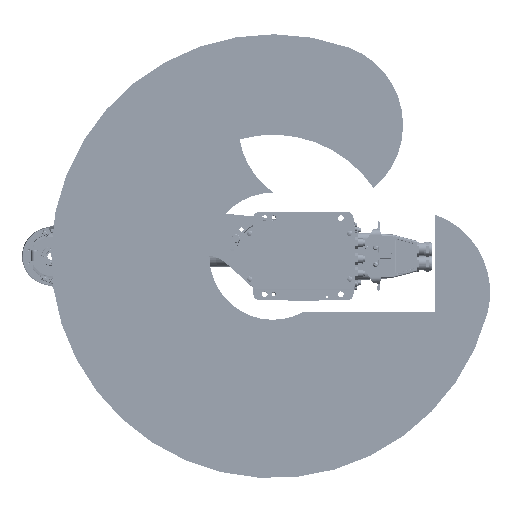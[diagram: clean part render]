
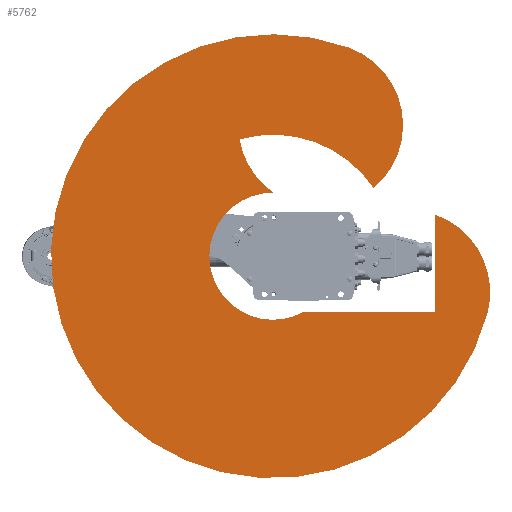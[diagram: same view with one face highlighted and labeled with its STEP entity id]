
A CAD part, front view. The second image highlights one B-rep face of the part: STEP entity #5762.
In plain terms, the highlighted planar face has unit normal (0, -1, 0).
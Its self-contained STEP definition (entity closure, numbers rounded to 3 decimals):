
#5762 = ADVANCED_FACE( '', ( #15314 ), #15315, .F. );
#15314 = FACE_OUTER_BOUND( '', #29925, .T. );
#15315 = PLANE( '', #29926 );
#29925 = EDGE_LOOP( '', ( #48568, #48569, #48570, #48571, #48572, #48573, #48574, #48575 ) );
#29926 = AXIS2_PLACEMENT_3D( '', #48576, #48577, #48578 );
#48568 = ORIENTED_EDGE( '', *, *, #81053, .T. );
#48569 = ORIENTED_EDGE( '', *, *, #81167, .F. );
#48570 = ORIENTED_EDGE( '', *, *, #81168, .F. );
#48571 = ORIENTED_EDGE( '', *, *, #81169, .F. );
#48572 = ORIENTED_EDGE( '', *, *, #81170, .F. );
#48573 = ORIENTED_EDGE( '', *, *, #81171, .T. );
#48574 = ORIENTED_EDGE( '', *, *, #81172, .T. );
#48575 = ORIENTED_EDGE( '', *, *, #81173, .T. );
#48576 = CARTESIAN_POINT( '', ( 28.47, 0., 106.252 ) );
#48577 = DIRECTION( '', ( 0., 1., 0. ) );
#48578 = DIRECTION( '', ( 0., 0., 1. ) );
#81053 = EDGE_CURVE( '', #96912, #96913, #96914, .T. );
#81167 = EDGE_CURVE( '', #97099, #96913, #97100, .T. );
#81168 = EDGE_CURVE( '', #97101, #97099, #97102, .T. );
#81169 = EDGE_CURVE( '', #97103, #97101, #97104, .T. );
#81170 = EDGE_CURVE( '', #97105, #97103, #97106, .T. );
#81171 = EDGE_CURVE( '', #97105, #97107, #97108, .T. );
#81172 = EDGE_CURVE( '', #97107, #97109, #97110, .T. );
#81173 = EDGE_CURVE( '', #97109, #96912, #97111, .T. );
#96912 = VERTEX_POINT( '', #120253 );
#96913 = VERTEX_POINT( '', #120254 );
#96914 = CIRCLE( '', #120255, 191.57 );
#97099 = VERTEX_POINT( '', #120509 );
#97100 = CIRCLE( '', #120510, 130. );
#97101 = VERTEX_POINT( '', #120511 );
#97102 = CIRCLE( '', #120512, 350. );
#97103 = VERTEX_POINT( '', #120513 );
#97104 = CIRCLE( '', #120514, 130. );
#97105 = VERTEX_POINT( '', #120515 );
#97106 = LINE( '', #120516, #120517 );
#97107 = VERTEX_POINT( '', #120518 );
#97108 = LINE( '', #120519, #120520 );
#97109 = VERTEX_POINT( '', #120521 );
#97110 = CIRCLE( '', #120522, 100.24 );
#97111 = CIRCLE( '', #120523, 130. );
#120253 = CARTESIAN_POINT( '', ( -184.156, 0., -52.78 ) );
#120254 = CARTESIAN_POINT( '', ( -107.145, 0., 158.805 ) );
#120255 = AXIS2_PLACEMENT_3D( '', #147865, #147866, #147867 );
#120509 = CARTESIAN_POINT( '', ( -328.892, 0., 119.707 ) );
#120510 = AXIS2_PLACEMENT_3D( '', #147997, #147998, #147999 );
#120511 = CARTESIAN_POINT( '', ( 90.587, 0., 338.074 ) );
#120512 = AXIS2_PLACEMENT_3D( '', #148000, #148001, #148002 );
#120513 = CARTESIAN_POINT( '', ( -65.918, 0., 255. ) );
#120514 = AXIS2_PLACEMENT_3D( '', #148003, #148004, #148005 );
#120515 = CARTESIAN_POINT( '', ( 88., 0., 255. ) );
#120516 = CARTESIAN_POINT( '', ( 28.47, 0., 255. ) );
#120517 = VECTOR( '', #148006, 1000. );
#120518 = CARTESIAN_POINT( '', ( 88., 0., 48.001 ) );
#120519 = CARTESIAN_POINT( '', ( 88., 0., 255. ) );
#120520 = VECTOR( '', #148007, 1000. );
#120521 = CARTESIAN_POINT( '', ( -100.238, 0., 0.687 ) );
#120522 = AXIS2_PLACEMENT_3D( '', #148008, #148009, #148010 );
#120523 = AXIS2_PLACEMENT_3D( '', #148011, #148012, #148013 );
#147865 = CARTESIAN_POINT( '', ( 0., 0., 0. ) );
#147866 = DIRECTION( '', ( 0., 1., 0. ) );
#147867 = DIRECTION( '', ( 1., 0., 0. ) );
#147997 = CARTESIAN_POINT( '', ( -206.732, 0., 75.244 ) );
#147998 = DIRECTION( '', ( 0., 1., 0. ) );
#147999 = DIRECTION( '', ( 1., 0., 0. ) );
#148000 = CARTESIAN_POINT( '', ( 0., 0., 0. ) );
#148001 = DIRECTION( '', ( 0., 1., 0. ) );
#148002 = DIRECTION( '', ( 1., 0., 0. ) );
#148003 = CARTESIAN_POINT( '', ( 56.94, 0., 212.504 ) );
#148004 = DIRECTION( '', ( 0., 1., 0. ) );
#148005 = DIRECTION( '', ( 1., 0., 0. ) );
#148006 = DIRECTION( '', ( -1., 0., 0. ) );
#148007 = DIRECTION( '', ( 0., 0., -1. ) );
#148008 = CARTESIAN_POINT( '', ( 0., 0., 0. ) );
#148009 = DIRECTION( '', ( 0., 1., 0. ) );
#148010 = DIRECTION( '', ( 1., 0., 0. ) );
#148011 = CARTESIAN_POINT( '', ( -206.732, 0., 75.244 ) );
#148012 = DIRECTION( '', ( 0., 1., 0. ) );
#148013 = DIRECTION( '', ( 1., 0., 0. ) );
